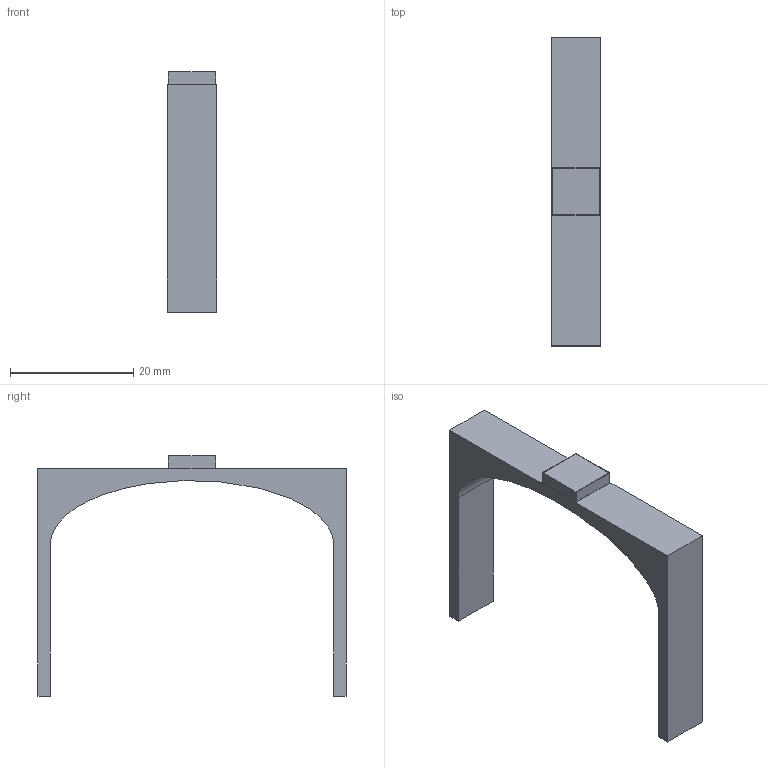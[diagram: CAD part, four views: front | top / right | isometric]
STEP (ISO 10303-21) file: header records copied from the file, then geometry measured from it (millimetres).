
FILE_DESCRIPTION(/* description */ (''),/* implementation_level */ '2;1');
FILE_NAME(/* name */ 'testprintpresfit v2',/* time_stamp */ '2025-04-15T12:58:05-04:00',/* author */ (''),/* organization */ (''),/* preprocessor_version */ 'ST-DEVELOPER v19.2',/* originating_system */ 'Rhino 8.18',/* authorisation */ '');
FILE_SCHEMA (('CONFIG_CONTROL_DESIGN'));
Length unit declared in the file: millimetre
Products named in the file (1): Document
Bounding box: 8 x 50 x 39 mm (x, y, z)
Volume: 2882.5 mm3; surface area: 2730.8 mm2
Topology: 2 solids, 2 shells, 40 faces, 84 edges, 48 vertices
Faces by surface type: plane 39, bspline 1
Entity records: 990 total; most frequent: CARTESIAN_POINT 277, ORIENTED_EDGE 168, EDGE_CURVE 84, B_SPLINE_CURVE_WITH_KNOTS 82, VERTEX_POINT 48, DIRECTION 43, AXIS2_PLACEMENT_3D 41, ADVANCED_FACE 40
